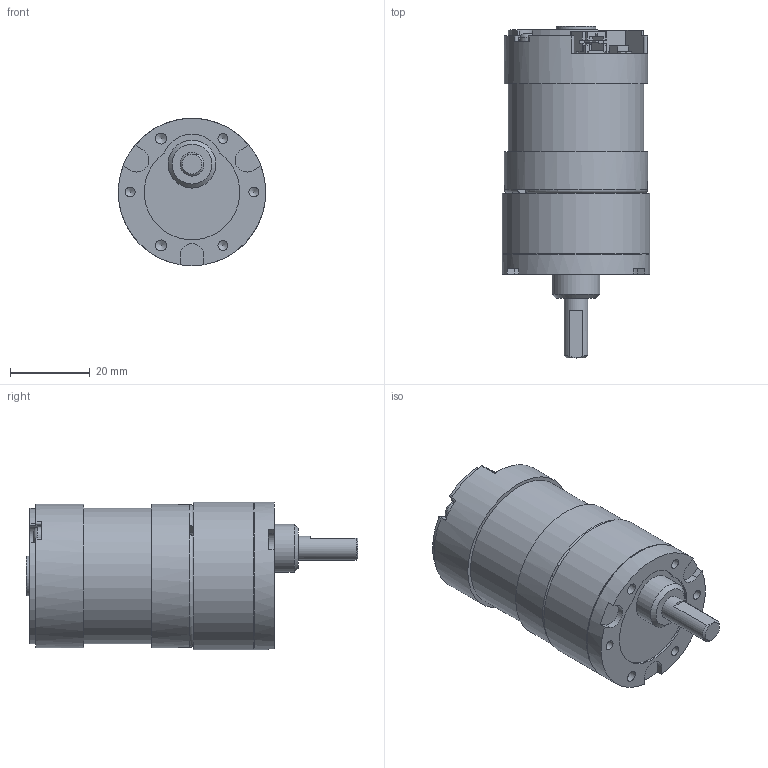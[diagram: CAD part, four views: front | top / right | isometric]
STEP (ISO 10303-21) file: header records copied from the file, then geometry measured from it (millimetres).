
FILE_DESCRIPTION((''),'2;1');
FILE_NAME('\\Servert1600\threepeace\2015homepage\STP\HP-Data_GM_3D_STEP\TP-3641AA,BA,CA,DA,EA（ドライバ内蔵）-KJ-5～10-P000-12,24.stp','2016-11-11T13:06:50',('Administrator'),(''),'Autodesk Inventor 2010','Autodesk Inventor 2010','');
FILE_SCHEMA(('AUTOMOTIVE_DESIGN { 1 0 10303 214 1 1 1 1 }'));
Length unit declared in the file: millimetre
Products named in the file (6): TP-3641AA,BA,CA,DA,EA（ドライバ内蔵）-KJ-5～10-P000-12,24; KJ-2; TP-3641AA,BA,CA-24; TP-3641BA,l; S2B-PH-SM4-TB; SMD-TRIMMERS
Assembly tree (5 placements, depth 3):
  TP-3641AA,BA,CA,DA,EA（ドライバ内蔵）-KJ-5～10-P000-12,24
    KJ-2
    TP-3641AA,BA,CA-24
      TP-3641BA,l
      S2B-PH-SM4-TB
      SMD-TRIMMERS
Bounding box: 37 x 83.3 x 37 mm (x, y, z)
Volume: 60949.9 mm3; surface area: 13241.2 mm2
Topology: 5 solids, 5 shells, 242 faces, 640 edges, 423 vertices
Faces by surface type: plane 152, cylinder 46, bspline 37, torus 4, cone 3
Full cylindrical faces by diameter (mm): 1.9 x1, 2.5 x2, 5 x1, 6 x1, 10 x2, 12 x1, 34.1 x1, 36 x2, 36.6 x1, 37 x2
Entity records: 7709 total; most frequent: CARTESIAN_POINT 1866, DIRECTION 1127, ORIENTED_EDGE 1094, EDGE_CURVE 547, VECTOR 387, LINE 387, VERTEX_POINT 384, AXIS2_PLACEMENT_3D 370
